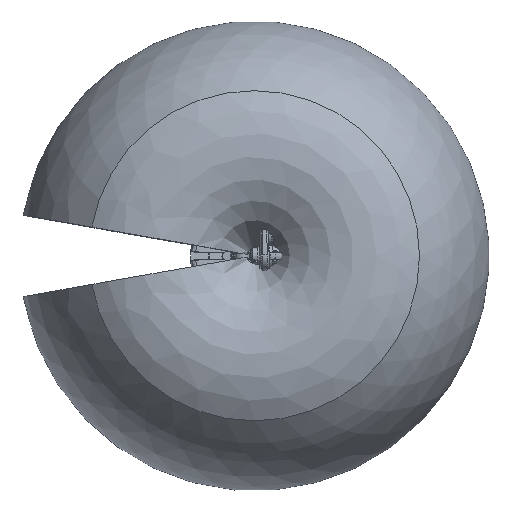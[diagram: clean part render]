
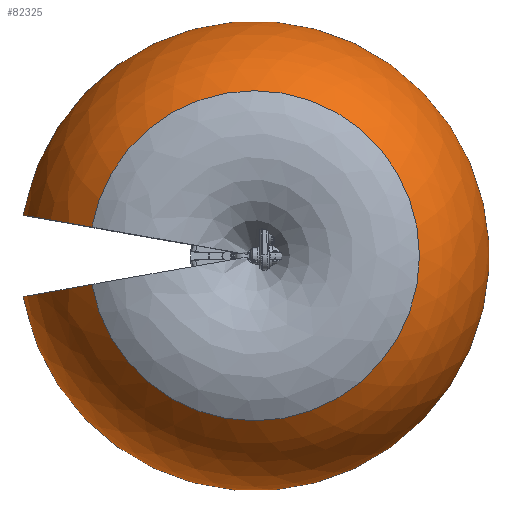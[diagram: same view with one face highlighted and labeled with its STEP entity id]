
A CAD part, top view. The second image highlights one B-rep face of the part: STEP entity #82325.
In plain terms, the highlighted free-form (B-spline) face has degree [2, 2] with [3, 9] control points.
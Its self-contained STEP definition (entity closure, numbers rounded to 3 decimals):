
#253=(
BOUNDED_SURFACE()
B_SPLINE_SURFACE(2,2,((#259615,#259616,#259617,#259618,#259619,#259620,
#259621,#259622,#259623),(#259624,#259625,#259626,#259627,#259628,#259629,
#259630,#259631,#259632),(#259633,#259634,#259635,#259636,#259637,#259638,
#259639,#259640,#259641)),.UNSPECIFIED.,.F.,.F.,.F.)
B_SPLINE_SURFACE_WITH_KNOTS((3,3),(3,2,2,2,3),(-0.112,0.848),
(-2.967,-1.484,0.,1.484,
2.967),.UNSPECIFIED.)
GEOMETRIC_REPRESENTATION_ITEM()
RATIONAL_B_SPLINE_SURFACE(((1.,0.737,1.,0.737,1.,
0.737,1.,0.737,1.),(0.887,0.654,
0.887,0.654,0.887,0.654,
0.887,0.654,0.887),(1.,0.737,
1.,0.737,1.,0.737,1.,0.737,1.)))
REPRESENTATION_ITEM('')
SURFACE()
);
#24986=FACE_OUTER_BOUND('',#31103,.T.);
#31103=EDGE_LOOP('',(#76346,#76347,#76348,#76349));
#33975=CIRCLE('',#90472,2448.638);
#33976=CIRCLE('',#90473,3066.989);
#33977=CIRCLE('',#90474,3467.816);
#33978=CIRCLE('',#90475,3066.989);
#41819=VERTEX_POINT('',#259642);
#41820=VERTEX_POINT('',#259643);
#41821=VERTEX_POINT('',#259645);
#41822=VERTEX_POINT('',#259647);
#53330=EDGE_CURVE('',#41819,#41820,#33975,.T.);
#53331=EDGE_CURVE('',#41820,#41821,#33976,.T.);
#53332=EDGE_CURVE('',#41821,#41822,#33977,.T.);
#53333=EDGE_CURVE('',#41822,#41819,#33978,.T.);
#76346=ORIENTED_EDGE('',*,*,#53330,.T.);
#76347=ORIENTED_EDGE('',*,*,#53331,.T.);
#76348=ORIENTED_EDGE('',*,*,#53332,.T.);
#76349=ORIENTED_EDGE('',*,*,#53333,.T.);
#82325=ADVANCED_FACE('',(#24986),#253,.F.);
#90472=AXIS2_PLACEMENT_3D('',#259644,#112804,#112805);
#90473=AXIS2_PLACEMENT_3D('',#259646,#112806,#112807);
#90474=AXIS2_PLACEMENT_3D('',#259648,#112808,#112809);
#90475=AXIS2_PLACEMENT_3D('',#259649,#112810,#112811);
#112804=DIRECTION('center_axis',(0.,0.,-1.));
#112805=DIRECTION('ref_axis',(0.,-1.,0.));
#112806=DIRECTION('center_axis',(0.174,-0.985,0.));
#112807=DIRECTION('ref_axis',(-0.979,-0.173,-0.112));
#112808=DIRECTION('center_axis',(0.,0.,1.));
#112809=DIRECTION('ref_axis',(0.,-1.,0.));
#112810=DIRECTION('center_axis',(0.174,0.985,0.));
#112811=DIRECTION('ref_axis',(-0.651,0.115,0.75));
#259615=CARTESIAN_POINT('Ctrl Pts',(-3415.132,-602.18,
657.593));
#259616=CARTESIAN_POINT('Ctrl Pts',(-2863.336,-3731.572,
657.593));
#259617=CARTESIAN_POINT('Ctrl Pts',(302.24,-3454.62,
657.593));
#259618=CARTESIAN_POINT('Ctrl Pts',(3467.816,-3177.668,657.593));
#259619=CARTESIAN_POINT('Ctrl Pts',(3467.816,0.,
657.593));
#259620=CARTESIAN_POINT('Ctrl Pts',(3467.816,3177.668,657.593));
#259621=CARTESIAN_POINT('Ctrl Pts',(302.24,3454.62,657.593));
#259622=CARTESIAN_POINT('Ctrl Pts',(-2863.336,3731.572,
657.593));
#259623=CARTESIAN_POINT('Ctrl Pts',(-3415.132,602.18,
657.593));
#259624=CARTESIAN_POINT('Ctrl Pts',(-3590.669,-633.132,
2244.186));
#259625=CARTESIAN_POINT('Ctrl Pts',(-3010.511,-3923.374,
2244.186));
#259626=CARTESIAN_POINT('Ctrl Pts',(317.775,-3632.187,
2244.186));
#259627=CARTESIAN_POINT('Ctrl Pts',(3646.061,-3341.,2244.186));
#259628=CARTESIAN_POINT('Ctrl Pts',(3646.061,0.,
2244.186));
#259629=CARTESIAN_POINT('Ctrl Pts',(3646.061,3341.,2244.186));
#259630=CARTESIAN_POINT('Ctrl Pts',(317.775,3632.187,2244.186));
#259631=CARTESIAN_POINT('Ctrl Pts',(-3010.511,3923.374,
2244.186));
#259632=CARTESIAN_POINT('Ctrl Pts',(-3590.669,633.132,
2244.186));
#259633=CARTESIAN_POINT('Ctrl Pts',(-2411.438,-425.202,
3300.228));
#259634=CARTESIAN_POINT('Ctrl Pts',(-2021.812,-2634.877,
3300.228));
#259635=CARTESIAN_POINT('Ctrl Pts',(213.413,-2439.32,
3300.228));
#259636=CARTESIAN_POINT('Ctrl Pts',(2448.638,-2243.764,
3300.228));
#259637=CARTESIAN_POINT('Ctrl Pts',(2448.638,0.,
3300.228));
#259638=CARTESIAN_POINT('Ctrl Pts',(2448.638,2243.764,3300.228));
#259639=CARTESIAN_POINT('Ctrl Pts',(213.413,2439.32,3300.228));
#259640=CARTESIAN_POINT('Ctrl Pts',(-2021.812,2634.877,
3300.228));
#259641=CARTESIAN_POINT('Ctrl Pts',(-2411.438,425.202,
3300.228));
#259642=CARTESIAN_POINT('',(-2411.438,425.202,3300.228));
#259643=CARTESIAN_POINT('',(-2411.438,-425.202,3300.228));
#259644=CARTESIAN_POINT('Origin',(0.,0.,3300.228));
#259645=CARTESIAN_POINT('',(-3415.132,-602.18,657.593));
#259646=CARTESIAN_POINT('Origin',(-413.619,-72.932,1000.));
#259647=CARTESIAN_POINT('',(-3415.132,602.18,657.593));
#259648=CARTESIAN_POINT('Origin',(0.,0.,657.593));
#259649=CARTESIAN_POINT('Origin',(-413.619,72.932,1000.));
